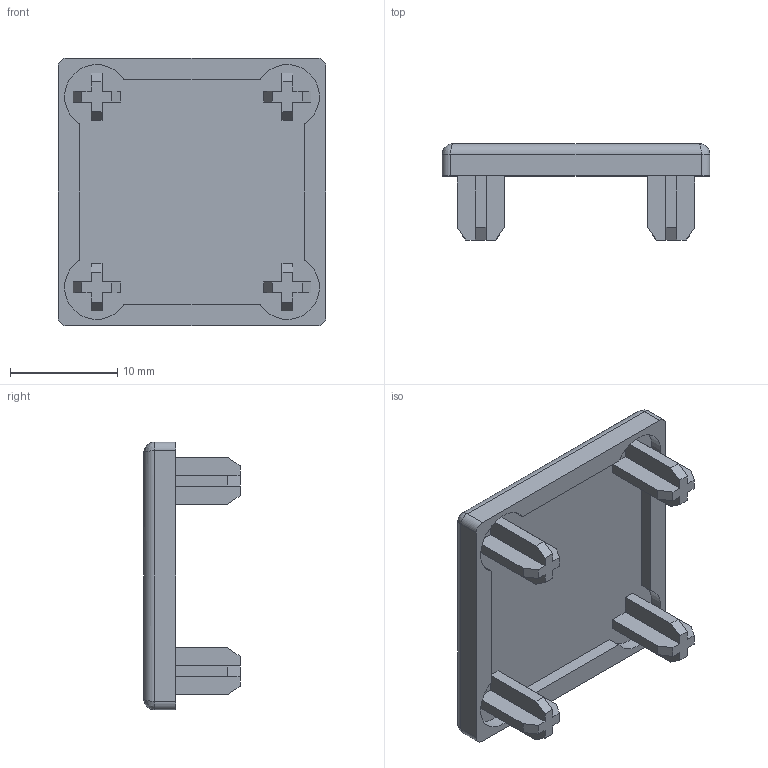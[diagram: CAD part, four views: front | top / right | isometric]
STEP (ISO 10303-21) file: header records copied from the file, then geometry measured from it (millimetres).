
FILE_DESCRIPTION(/* description */ (''),/* implementation_level */ '2;1');
FILE_NAME(/* name */ 'PEC-25-25.STEP',/* time_stamp */ '2026-02-10T15:15:43-05:00',/* author */ ('Design2'),/* organization */ (''),/* preprocessor_version */ 'ST-DEVELOPER v20',/* originating_system */ 'Autodesk Inventor 2025',/* authorisation */ '');
FILE_SCHEMA (('AUTOMOTIVE_DESIGN { 1 0 10303 214 3 1 1 }'));
Length unit declared in the file: inch
Products named in the file (1): PEC-25-25
Bounding box: 25 x 9 x 25 mm (x, y, z)
Volume: 1494.5 mm3; surface area: 2097.3 mm2
Topology: 1 solids, 1 shells, 95 faces, 256 edges, 164 vertices
Faces by surface type: plane 79, cylinder 12, bspline 4
Entity records: 3043 total; most frequent: CARTESIAN_POINT 628, ORIENTED_EDGE 504, DIRECTION 460, EDGE_CURVE 252, LINE 228, VECTOR 228, VERTEX_POINT 164, AXIS2_PLACEMENT_3D 116
